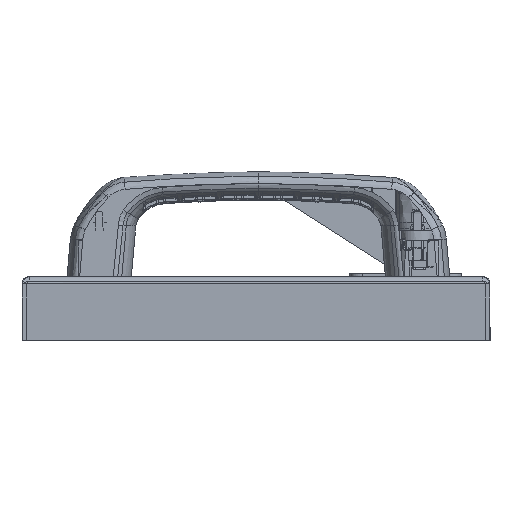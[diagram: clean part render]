
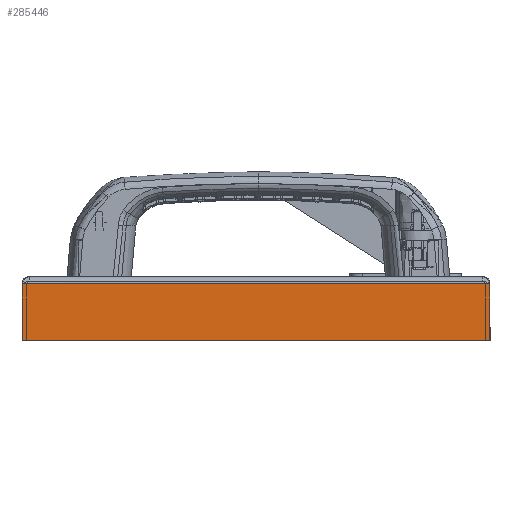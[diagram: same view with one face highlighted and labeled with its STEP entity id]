
A CAD part, left-side view. The second image highlights one B-rep face of the part: STEP entity #285446.
In plain terms, the highlighted planar face has unit normal (-1, 0, 0).
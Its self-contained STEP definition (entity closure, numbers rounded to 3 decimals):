
#280806=CARTESIAN_POINT(' ',(0.,147.,-2.3));
#280807=VERTEX_POINT(' ',#280806);
#281331=CARTESIAN_POINT(' ',(0.,147.,-2.3));
#281336=DIRECTION(' ',(0.,-1.,0.));
#281341=VECTOR(' ',#281336,1.);
#281346=LINE('',#281331,#281341);
#281351=CARTESIAN_POINT(' ',(0.,0.,-2.3));
#281352=VERTEX_POINT(' ',#281351);
#281356=EDGE_CURVE(' ',#280807,#281352,#281346,.T.);
#284046=CARTESIAN_POINT(' ',(0.,147.,-20.));
#284051=DIRECTION(' ',(0.,0.,1.));
#284056=VECTOR(' ',#284051,1.);
#284061=LINE('',#284046,#284056);
#284066=CARTESIAN_POINT(' ',(0.,147.,-20.));
#284067=VERTEX_POINT(' ',#284066);
#284071=EDGE_CURVE(' ',#284067,#280807,#284061,.T.);
#285336=DIRECTION(' ',(-1.,-0.,-0.));
#285341=CARTESIAN_POINT(' ',(0.,0.,-2.3));
#285346=DIRECTION(' ',(-0.,1.,0.));
#285351=AXIS2_PLACEMENT_3D(' ',#285341,#285336,#285346);
#285356=PLANE('NONE',#285351);
#285361=CARTESIAN_POINT(' ',(0.,0.,-20.));
#285366=DIRECTION(' ',(0.,0.,1.));
#285371=VECTOR(' ',#285366,1.);
#285376=LINE('',#285361,#285371);
#285381=CARTESIAN_POINT(' ',(0.,0.,-20.));
#285382=VERTEX_POINT(' ',#285381);
#285386=EDGE_CURVE(' ',#285382,#281352,#285376,.T.);
#285391=ORIENTED_EDGE(' ',*,*,#285386,.T.);
#285396=ORIENTED_EDGE(' ',*,*,#281356,.F.);
#285401=ORIENTED_EDGE(' ',*,*,#284071,.F.);
#285406=CARTESIAN_POINT(' ',(0.,147.,-20.));
#285411=DIRECTION(' ',(0.,-1.,0.));
#285416=VECTOR(' ',#285411,1.);
#285421=LINE('',#285406,#285416);
#285426=EDGE_CURVE(' ',#284067,#285382,#285421,.T.);
#285431=ORIENTED_EDGE(' ',*,*,#285426,.T.);
#285436=EDGE_LOOP(' ',(#285391,#285396,#285401,#285431));
#285441=FACE_OUTER_BOUND(' ',#285436,.T.);
#285446=ADVANCED_FACE('NONE',(#285441),#285356,.T.);
